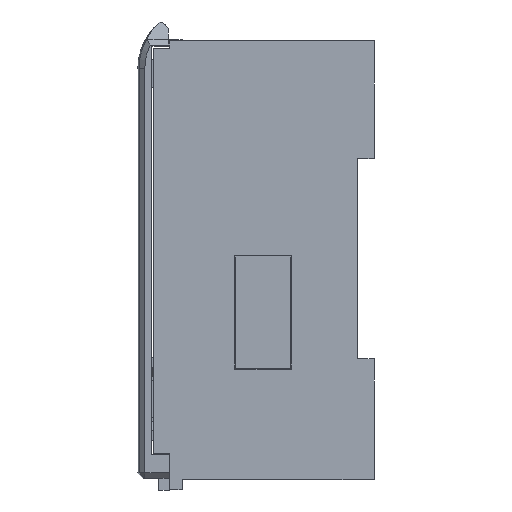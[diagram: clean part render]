
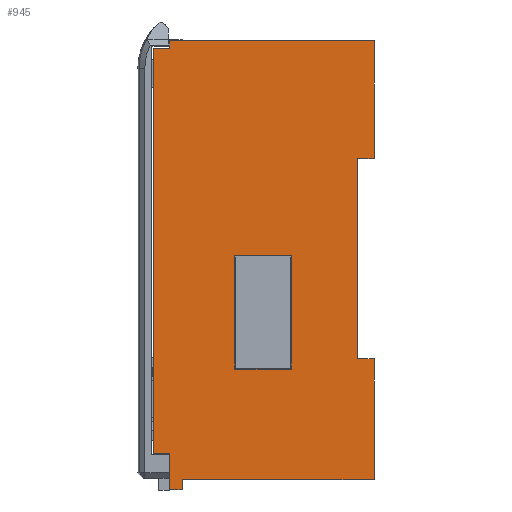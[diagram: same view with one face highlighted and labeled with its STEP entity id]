
A CAD part, left-side view. The second image highlights one B-rep face of the part: STEP entity #945.
In plain terms, the highlighted planar face has unit normal (-1, 0, 0).
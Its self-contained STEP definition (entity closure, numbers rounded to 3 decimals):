
#450 = VERTEX_POINT ( 'NONE', #2746 ) ;
#478 = EDGE_CURVE ( 'NONE', #646, #622, #2797, .T. ) ;
#558 = VERTEX_POINT ( 'NONE', #2829 ) ;
#567 = VERTEX_POINT ( 'NONE', #2822 ) ;
#573 = VERTEX_POINT ( 'NONE', #2124 ) ;
#574 = EDGE_CURVE ( 'NONE', #575, #666, #2259, .T. ) ;
#575 = VERTEX_POINT ( 'NONE', #3143 ) ;
#584 = VERTEX_POINT ( 'NONE', #3140 ) ;
#585 = EDGE_CURVE ( 'NONE', #584, #586, #3146, .T. ) ;
#586 = VERTEX_POINT ( 'NONE', #3144 ) ;
#619 = ORIENTED_EDGE ( 'NONE', *, *, #621, .F. ) ;
#620 = ORIENTED_EDGE ( 'NONE', *, *, #870, .F. ) ;
#621 = EDGE_CURVE ( 'NONE', #622, #932, #3004, .T. ) ;
#622 = VERTEX_POINT ( 'NONE', #3002 ) ;
#623 = ORIENTED_EDGE ( 'NONE', *, *, #878, .F. ) ;
#646 = VERTEX_POINT ( 'NONE', #3039 ) ;
#666 = VERTEX_POINT ( 'NONE', #2987 ) ;
#687 = EDGE_CURVE ( 'NONE', #573, #558, #2925, .T. ) ;
#688 = EDGE_CURVE ( 'NONE', #450, #567, #2913, .T. ) ;
#713 = VERTEX_POINT ( 'NONE', #3172 ) ;
#719 = EDGE_CURVE ( 'NONE', #713, #573, #3265, .T. ) ;
#735 = VERTEX_POINT ( 'NONE', #3249 ) ;
#739 = ORIENTED_EDGE ( 'NONE', *, *, #478, .F. ) ;
#744 = EDGE_CURVE ( 'NONE', #666, #748, #3234, .T. ) ;
#746 = VERTEX_POINT ( 'NONE', #3221 ) ;
#748 = VERTEX_POINT ( 'NONE', #3220 ) ;
#820 = EDGE_CURVE ( 'NONE', #880, #450, #3314, .T. ) ;
#821 = ORIENTED_EDGE ( 'NONE', *, *, #873, .F. ) ;
#822 = EDGE_LOOP ( 'NONE', ( #824, #827, #826, #825, #828, #874, #821, #830, #875, #871, #886, #882, #883, #885 ) ) ;
#823 = VERTEX_POINT ( 'NONE', #3303 ) ;
#824 = ORIENTED_EDGE ( 'NONE', *, *, #879, .F. ) ;
#825 = ORIENTED_EDGE ( 'NONE', *, *, #829, .T. ) ;
#826 = ORIENTED_EDGE ( 'NONE', *, *, #820, .F. ) ;
#827 = ORIENTED_EDGE ( 'NONE', *, *, #688, .F. ) ;
#828 = ORIENTED_EDGE ( 'NONE', *, *, #687, .F. ) ;
#829 = EDGE_CURVE ( 'NONE', #880, #558, #3204, .T. ) ;
#830 = ORIENTED_EDGE ( 'NONE', *, *, #876, .F. ) ;
#868 = EDGE_CURVE ( 'NONE', #748, #746, #3373, .T. ) ;
#869 = EDGE_LOOP ( 'NONE', ( #620, #619, #739, #623 ) ) ;
#870 = EDGE_CURVE ( 'NONE', #932, #735, #3429, .T. ) ;
#871 = ORIENTED_EDGE ( 'NONE', *, *, #868, .F. ) ;
#873 = EDGE_CURVE ( 'NONE', #823, #713, #3418, .T. ) ;
#874 = ORIENTED_EDGE ( 'NONE', *, *, #719, .F. ) ;
#875 = ORIENTED_EDGE ( 'NONE', *, *, #881, .T. ) ;
#876 = EDGE_CURVE ( 'NONE', #877, #823, #3419, .T. ) ;
#877 = VERTEX_POINT ( 'NONE', #3424 ) ;
#878 = EDGE_CURVE ( 'NONE', #735, #646, #3414, .T. ) ;
#879 = EDGE_CURVE ( 'NONE', #567, #584, #3409, .T. ) ;
#880 = VERTEX_POINT ( 'NONE', #3425 ) ;
#881 = EDGE_CURVE ( 'NONE', #877, #746, #3618, .T. ) ;
#882 = ORIENTED_EDGE ( 'NONE', *, *, #574, .F. ) ;
#883 = ORIENTED_EDGE ( 'NONE', *, *, #887, .T. ) ;
#885 = ORIENTED_EDGE ( 'NONE', *, *, #585, .F. ) ;
#886 = ORIENTED_EDGE ( 'NONE', *, *, #744, .F. ) ;
#887 = EDGE_CURVE ( 'NONE', #575, #586, #3410, .T. ) ;
#932 = VERTEX_POINT ( 'NONE', #3511 ) ;
#945 = ADVANCED_FACE ( 'NONE', ( #3522, #3504 ), #3493, .T. ) ;
#2124 = CARTESIAN_POINT ( 'NONE',  ( -10.55, -3., -80. ) ) ;
#2252 = DIRECTION ( 'NONE',  ( 0., 0., -1. ) ) ;
#2259 = LINE ( 'NONE', #2828, #2817 ) ;
#2746 = CARTESIAN_POINT ( 'NONE',  ( -10.55, 34.3, -81.9 ) ) ;
#2789 = DIRECTION ( 'NONE',  ( 0., 1., 0. ) ) ;
#2790 = VECTOR ( 'NONE', #2789, 1000. ) ;
#2796 = CARTESIAN_POINT ( 'NONE',  ( -10.55, 22.4, -39.15 ) ) ;
#2797 = LINE ( 'NONE', #2796, #2790 ) ;
#2816 = DIRECTION ( 'NONE',  ( 0., 0., 1. ) ) ;
#2817 = VECTOR ( 'NONE', #2816, 1000. ) ;
#2822 = CARTESIAN_POINT ( 'NONE',  ( -10.55, 34.3, -75.3 ) ) ;
#2828 = CARTESIAN_POINT ( 'NONE',  ( -10.55, 34.3, 0. ) ) ;
#2829 = CARTESIAN_POINT ( 'NONE',  ( -10.55, 31.988, -80. ) ) ;
#2910 = DIRECTION ( 'NONE',  ( 0., 0., 1. ) ) ;
#2911 = VECTOR ( 'NONE', #2910, 1000. ) ;
#2912 = CARTESIAN_POINT ( 'NONE',  ( -10.55, 34.3, -80. ) ) ;
#2913 = LINE ( 'NONE', #2912, #2911 ) ;
#2914 = DIRECTION ( 'NONE',  ( 0., 1., 0. ) ) ;
#2915 = VECTOR ( 'NONE', #2914, 1000. ) ;
#2924 = CARTESIAN_POINT ( 'NONE',  ( -10.55, -3., -80. ) ) ;
#2925 = LINE ( 'NONE', #2924, #2915 ) ;
#2987 = CARTESIAN_POINT ( 'NONE',  ( -10.55, 34.3, 0. ) ) ;
#3002 = CARTESIAN_POINT ( 'NONE',  ( -10.55, 22.4, -39.15 ) ) ;
#3003 = CARTESIAN_POINT ( 'NONE',  ( -10.55, 22.4, -59.85 ) ) ;
#3004 = LINE ( 'NONE', #3003, #3109 ) ;
#3039 = CARTESIAN_POINT ( 'NONE',  ( -10.55, 12.1, -39.15 ) ) ;
#3108 = DIRECTION ( 'NONE',  ( 0., 0., -1. ) ) ;
#3109 = VECTOR ( 'NONE', #3108, 1000. ) ;
#3138 = DIRECTION ( 'NONE',  ( 0., 0., 1. ) ) ;
#3139 = VECTOR ( 'NONE', #3138, 1000. ) ;
#3140 = CARTESIAN_POINT ( 'NONE',  ( -10.55, 37.3, -75.3 ) ) ;
#3143 = CARTESIAN_POINT ( 'NONE',  ( -10.55, 34.3, -1.4 ) ) ;
#3144 = CARTESIAN_POINT ( 'NONE',  ( -10.55, 37.3, -1.4 ) ) ;
#3145 = CARTESIAN_POINT ( 'NONE',  ( -10.55, 37.3, 0. ) ) ;
#3146 = LINE ( 'NONE', #3145, #3139 ) ;
#3172 = CARTESIAN_POINT ( 'NONE',  ( -10.55, -3., -58. ) ) ;
#3201 = DIRECTION ( 'NONE',  ( 0., 0., 1. ) ) ;
#3202 = VECTOR ( 'NONE', #3201, 1000. ) ;
#3203 = CARTESIAN_POINT ( 'NONE',  ( -10.55, 31.988, -81.9 ) ) ;
#3204 = LINE ( 'NONE', #3203, #3202 ) ;
#3220 = CARTESIAN_POINT ( 'NONE',  ( -10.55, -3., 0. ) ) ;
#3221 = CARTESIAN_POINT ( 'NONE',  ( -10.55, -3., -21.5 ) ) ;
#3222 = VECTOR ( 'NONE', #3238, 1000. ) ;
#3234 = LINE ( 'NONE', #3239, #3222 ) ;
#3238 = DIRECTION ( 'NONE',  ( 0., -1., 0. ) ) ;
#3239 = CARTESIAN_POINT ( 'NONE',  ( -10.55, -3., 0. ) ) ;
#3249 = CARTESIAN_POINT ( 'NONE',  ( -10.55, 12.1, -59.85 ) ) ;
#3258 = DIRECTION ( 'NONE',  ( 0., 0., -1. ) ) ;
#3259 = VECTOR ( 'NONE', #3258, 1000. ) ;
#3264 = CARTESIAN_POINT ( 'NONE',  ( -10.55, -3., 0. ) ) ;
#3265 = LINE ( 'NONE', #3264, #3259 ) ;
#3303 = CARTESIAN_POINT ( 'NONE',  ( -10.55, 0., -58. ) ) ;
#3304 = DIRECTION ( 'NONE',  ( 0., 1., 0. ) ) ;
#3305 = VECTOR ( 'NONE', #3304, 1000. ) ;
#3306 = CARTESIAN_POINT ( 'NONE',  ( -10.55, 34.3, -81.9 ) ) ;
#3314 = LINE ( 'NONE', #3306, #3305 ) ;
#3371 = VECTOR ( 'NONE', #2252, 1000. ) ;
#3372 = CARTESIAN_POINT ( 'NONE',  ( -10.55, -3., 0. ) ) ;
#3373 = LINE ( 'NONE', #3372, #3371 ) ;
#3406 = DIRECTION ( 'NONE',  ( 0., 1., 0. ) ) ;
#3407 = VECTOR ( 'NONE', #3406, 1000. ) ;
#3408 = CARTESIAN_POINT ( 'NONE',  ( -10.55, 34.3, -75.3 ) ) ;
#3409 = LINE ( 'NONE', #3408, #3407 ) ;
#3410 = LINE ( 'NONE', #3610, #3609 ) ;
#3411 = DIRECTION ( 'NONE',  ( 0., 0., 1. ) ) ;
#3412 = VECTOR ( 'NONE', #3411, 1000. ) ;
#3413 = CARTESIAN_POINT ( 'NONE',  ( -10.55, 12.1, -59.85 ) ) ;
#3414 = LINE ( 'NONE', #3413, #3412 ) ;
#3415 = DIRECTION ( 'NONE',  ( 0., -1., 0. ) ) ;
#3416 = VECTOR ( 'NONE', #3415, 1000. ) ;
#3417 = CARTESIAN_POINT ( 'NONE',  ( -10.55, 0., -58. ) ) ;
#3418 = LINE ( 'NONE', #3417, #3416 ) ;
#3419 = LINE ( 'NONE', #3422, #3421 ) ;
#3420 = DIRECTION ( 'NONE',  ( 0., 0., -1. ) ) ;
#3421 = VECTOR ( 'NONE', #3420, 1000. ) ;
#3422 = CARTESIAN_POINT ( 'NONE',  ( -10.55, 0., -21.5 ) ) ;
#3424 = CARTESIAN_POINT ( 'NONE',  ( -10.55, 0., -21.5 ) ) ;
#3425 = CARTESIAN_POINT ( 'NONE',  ( -10.55, 31.988, -81.9 ) ) ;
#3426 = DIRECTION ( 'NONE',  ( 0., -1., 0. ) ) ;
#3427 = VECTOR ( 'NONE', #3426, 1000. ) ;
#3428 = CARTESIAN_POINT ( 'NONE',  ( -10.55, 22.4, -59.85 ) ) ;
#3429 = LINE ( 'NONE', #3428, #3427 ) ;
#3480 = DIRECTION ( 'NONE',  ( 0., 0., 1. ) ) ;
#3481 = DIRECTION ( 'NONE',  ( -1., 0., 0. ) ) ;
#3482 = CARTESIAN_POINT ( 'NONE',  ( -10.55, 37.3, 0. ) ) ;
#3483 = AXIS2_PLACEMENT_3D ( 'NONE', #3482, #3481, #3480 ) ;
#3493 = PLANE ( 'NONE',  #3483 ) ;
#3504 = FACE_OUTER_BOUND ( 'NONE', #822, .T. ) ;
#3511 = CARTESIAN_POINT ( 'NONE',  ( -10.55, 22.4, -59.85 ) ) ;
#3522 = FACE_BOUND ( 'NONE', #869, .T. ) ;
#3608 = DIRECTION ( 'NONE',  ( 0., 1., 0. ) ) ;
#3609 = VECTOR ( 'NONE', #3608, 1000. ) ;
#3610 = CARTESIAN_POINT ( 'NONE',  ( -10.55, 34.3, -1.4 ) ) ;
#3614 = DIRECTION ( 'NONE',  ( 0., -1., 0. ) ) ;
#3615 = VECTOR ( 'NONE', #3614, 1000. ) ;
#3617 = CARTESIAN_POINT ( 'NONE',  ( -10.55, 0., -21.5 ) ) ;
#3618 = LINE ( 'NONE', #3617, #3615 ) ;
